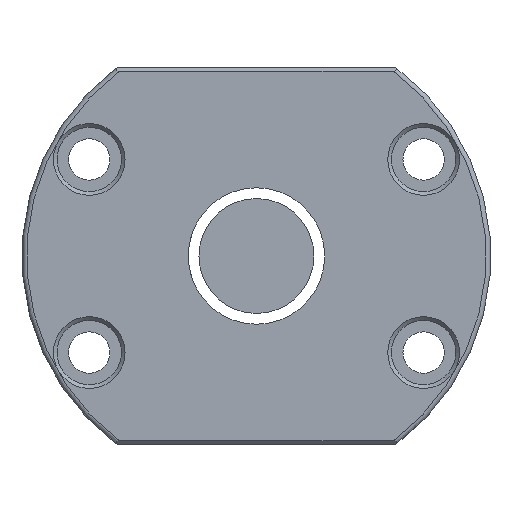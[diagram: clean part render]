
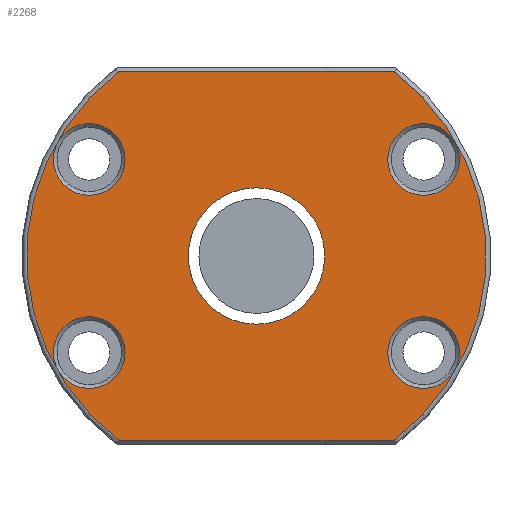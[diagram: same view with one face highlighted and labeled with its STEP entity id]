
A CAD part, left-side view. The second image highlights one B-rep face of the part: STEP entity #2268.
In plain terms, the highlighted planar face has unit normal (-1, 0, 0).
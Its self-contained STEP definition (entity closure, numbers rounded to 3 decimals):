
#18 = VERTEX_POINT ( 'NONE', #1363 ) ;
#40 = EDGE_LOOP ( 'NONE', ( #2655, #3646, #3625, #2838 ) ) ;
#72 = AXIS2_PLACEMENT_3D ( 'NONE', #229, #1121, #2903 ) ;
#79 = CIRCLE ( 'NONE', #2286, 50. ) ;
#124 = ORIENTED_EDGE ( 'NONE', *, *, #153, .T. ) ;
#147 = EDGE_LOOP ( 'NONE', ( #2785 ) ) ;
#153 = EDGE_CURVE ( 'NONE', #2641, #2641, #1648, .T. ) ;
#229 = CARTESIAN_POINT ( 'NONE',  ( -70., 36.373, -21. ) ) ;
#243 = VERTEX_POINT ( 'NONE', #757 ) ;
#244 = DIRECTION ( 'NONE',  ( -1., 0., 0. ) ) ;
#247 = ORIENTED_EDGE ( 'NONE', *, *, #738, .T. ) ;
#257 = DIRECTION ( 'NONE',  ( 0., 0., 1. ) ) ;
#282 = ORIENTED_EDGE ( 'NONE', *, *, #3382, .T. ) ;
#456 = CIRCLE ( 'NONE', #1656, 7.8 ) ;
#530 = DIRECTION ( 'NONE',  ( 1., 0., 0. ) ) ;
#546 = CARTESIAN_POINT ( 'NONE',  ( -70., -36.373, 21. ) ) ;
#578 = CIRCLE ( 'NONE', #72, 7.8 ) ;
#581 = DIRECTION ( 'NONE',  ( 0., 1., 0. ) ) ;
#738 = EDGE_CURVE ( 'NONE', #2916, #2916, #1342, .T. ) ;
#745 = EDGE_LOOP ( 'NONE', ( #3757 ) ) ;
#757 = CARTESIAN_POINT ( 'NONE',  ( -70., -29.731, 40.2 ) ) ;
#776 = DIRECTION ( 'NONE',  ( 0., 0., 1. ) ) ;
#856 = EDGE_CURVE ( 'NONE', #1207, #1207, #578, .T. ) ;
#1046 = AXIS2_PLACEMENT_3D ( 'NONE', #1446, #3600, #257 ) ;
#1117 = DIRECTION ( 'NONE',  ( 1., 0., 0. ) ) ;
#1120 = FACE_BOUND ( 'NONE', #745, .T. ) ;
#1121 = DIRECTION ( 'NONE',  ( 1., 0., 0. ) ) ;
#1139 = CARTESIAN_POINT ( 'NONE',  ( -70., 29.731, -40.2 ) ) ;
#1152 = CARTESIAN_POINT ( 'NONE',  ( -70., 36.373, -13.2 ) ) ;
#1207 = VERTEX_POINT ( 'NONE', #1152 ) ;
#1269 = AXIS2_PLACEMENT_3D ( 'NONE', #3751, #3411, #776 ) ;
#1297 = EDGE_LOOP ( 'NONE', ( #282 ) ) ;
#1342 = CIRCLE ( 'NONE', #3279, 7.8 ) ;
#1363 = CARTESIAN_POINT ( 'NONE',  ( -70., -36.373, 28.8 ) ) ;
#1391 = EDGE_LOOP ( 'NONE', ( #124 ) ) ;
#1435 = FACE_BOUND ( 'NONE', #147, .T. ) ;
#1446 = CARTESIAN_POINT ( 'NONE',  ( -70., 0., 0. ) ) ;
#1452 = PLANE ( 'NONE',  #2219 ) ;
#1506 = DIRECTION ( 'NONE',  ( 0., 0., 1. ) ) ;
#1569 = VERTEX_POINT ( 'NONE', #1139 ) ;
#1648 = CIRCLE ( 'NONE', #1269, 7.8 ) ;
#1656 = AXIS2_PLACEMENT_3D ( 'NONE', #546, #1760, #1506 ) ;
#1708 = CARTESIAN_POINT ( 'NONE',  ( -70., 36.373, 21. ) ) ;
#1725 = DIRECTION ( 'NONE',  ( 0., -1., 0. ) ) ;
#1744 = DIRECTION ( 'NONE',  ( 0., 0., 1. ) ) ;
#1760 = DIRECTION ( 'NONE',  ( 1., 0., 0. ) ) ;
#1764 = EDGE_CURVE ( 'NONE', #3370, #3370, #3284, .T. ) ;
#1909 = VERTEX_POINT ( 'NONE', #3176 ) ;
#2004 = FACE_BOUND ( 'NONE', #3662, .T. ) ;
#2014 = VERTEX_POINT ( 'NONE', #2569 ) ;
#2024 = FACE_OUTER_BOUND ( 'NONE', #40, .T. ) ;
#2171 = CIRCLE ( 'NONE', #1046, 50. ) ;
#2219 = AXIS2_PLACEMENT_3D ( 'NONE', #3532, #3274, #1744 ) ;
#2268 = ADVANCED_FACE ( 'NONE', ( #2024, #3222, #2590, #2004, #1120, #1435 ), #1452, .T. ) ;
#2286 = AXIS2_PLACEMENT_3D ( 'NONE', #3853, #244, #2663 ) ;
#2350 = AXIS2_PLACEMENT_3D ( 'NONE', #3755, #1117, #2604 ) ;
#2556 = CARTESIAN_POINT ( 'NONE',  ( -70., 0., -14.85 ) ) ;
#2569 = CARTESIAN_POINT ( 'NONE',  ( -70., 29.731, 40.2 ) ) ;
#2570 = DIRECTION ( 'NONE',  ( 0., 0., 1. ) ) ;
#2590 = FACE_BOUND ( 'NONE', #1297, .T. ) ;
#2604 = DIRECTION ( 'NONE',  ( 0., 0., -1. ) ) ;
#2641 = VERTEX_POINT ( 'NONE', #2994 ) ;
#2655 = ORIENTED_EDGE ( 'NONE', *, *, #2989, .T. ) ;
#2663 = DIRECTION ( 'NONE',  ( 0., 0., 1. ) ) ;
#2718 = VECTOR ( 'NONE', #581, 1000. ) ;
#2785 = ORIENTED_EDGE ( 'NONE', *, *, #1764, .T. ) ;
#2838 = ORIENTED_EDGE ( 'NONE', *, *, #3111, .T. ) ;
#2903 = DIRECTION ( 'NONE',  ( 0., 0., 1. ) ) ;
#2916 = VERTEX_POINT ( 'NONE', #3885 ) ;
#2971 = VECTOR ( 'NONE', #1725, 1000. ) ;
#2978 = LINE ( 'NONE', #2997, #2718 ) ;
#2989 = EDGE_CURVE ( 'NONE', #1569, #1909, #3178, .T. ) ;
#2994 = CARTESIAN_POINT ( 'NONE',  ( -70., -36.373, -13.2 ) ) ;
#2997 = CARTESIAN_POINT ( 'NONE',  ( -70., 30.332, 40.2 ) ) ;
#3111 = EDGE_CURVE ( 'NONE', #2014, #1569, #79, .T. ) ;
#3176 = CARTESIAN_POINT ( 'NONE',  ( -70., -29.731, -40.2 ) ) ;
#3178 = LINE ( 'NONE', #3795, #2971 ) ;
#3214 = EDGE_CURVE ( 'NONE', #243, #2014, #2978, .T. ) ;
#3222 = FACE_BOUND ( 'NONE', #1391, .T. ) ;
#3274 = DIRECTION ( 'NONE',  ( -1., 0., 0. ) ) ;
#3279 = AXIS2_PLACEMENT_3D ( 'NONE', #1708, #530, #2570 ) ;
#3284 = CIRCLE ( 'NONE', #2350, 14.85 ) ;
#3370 = VERTEX_POINT ( 'NONE', #2556 ) ;
#3382 = EDGE_CURVE ( 'NONE', #18, #18, #456, .T. ) ;
#3411 = DIRECTION ( 'NONE',  ( 1., 0., 0. ) ) ;
#3532 = CARTESIAN_POINT ( 'NONE',  ( -70., 51., 0. ) ) ;
#3600 = DIRECTION ( 'NONE',  ( -1., 0., 0. ) ) ;
#3625 = ORIENTED_EDGE ( 'NONE', *, *, #3214, .T. ) ;
#3646 = ORIENTED_EDGE ( 'NONE', *, *, #3800, .T. ) ;
#3662 = EDGE_LOOP ( 'NONE', ( #247 ) ) ;
#3751 = CARTESIAN_POINT ( 'NONE',  ( -70., -36.373, -21. ) ) ;
#3755 = CARTESIAN_POINT ( 'NONE',  ( -70., 0., 0. ) ) ;
#3757 = ORIENTED_EDGE ( 'NONE', *, *, #856, .T. ) ;
#3795 = CARTESIAN_POINT ( 'NONE',  ( -70., -30.332, -40.2 ) ) ;
#3800 = EDGE_CURVE ( 'NONE', #1909, #243, #2171, .T. ) ;
#3853 = CARTESIAN_POINT ( 'NONE',  ( -70., 0., 0. ) ) ;
#3885 = CARTESIAN_POINT ( 'NONE',  ( -70., 36.373, 28.8 ) ) ;
